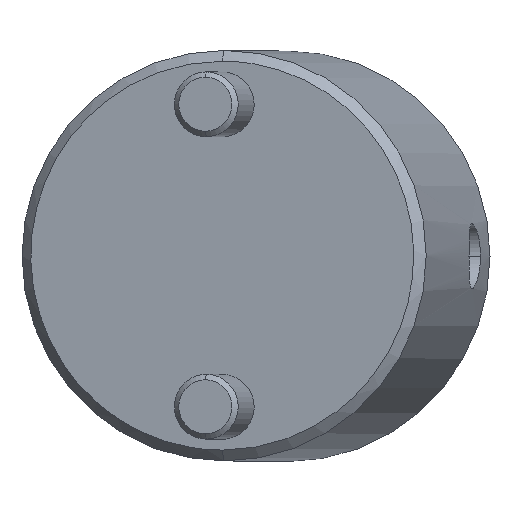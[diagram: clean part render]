
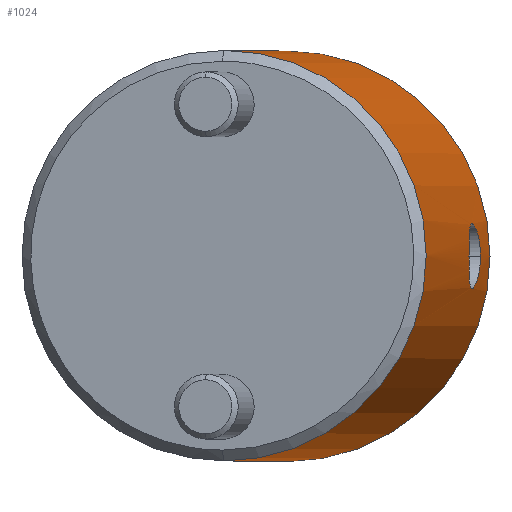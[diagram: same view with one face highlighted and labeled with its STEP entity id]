
A CAD part, top view. The second image highlights one B-rep face of the part: STEP entity #1024.
In plain terms, the highlighted cylindrical face has radius 19 mm (diameter 38 mm), a partial arc.
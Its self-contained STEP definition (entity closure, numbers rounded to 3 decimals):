
#760=CARTESIAN_POINT('Vertex',(0.,19.,1.)) ;
#763=CARTESIAN_POINT('Axis2P3D Location',(0.,0.,1.)) ;
#767=CARTESIAN_POINT('Vertex',(0.,-19.,1.)) ;
#919=CARTESIAN_POINT('Axis2P3D Location',(0.,0.,-1.8)) ;
#924=CARTESIAN_POINT('Line Origine',(0.,19.,-1.8)) ;
#928=CARTESIAN_POINT('Vertex',(0.,19.,35.)) ;
#931=CARTESIAN_POINT('Axis2P3D Location',(0.,0.,35.)) ;
#935=CARTESIAN_POINT('Vertex',(0.,-19.,35.)) ;
#938=CARTESIAN_POINT('Line Origine',(0.,-19.,-1.8)) ;
#950=CARTESIAN_POINT('Control Point',(19.,0.,29.901)) ;
#951=CARTESIAN_POINT('Control Point',(19.,0.082,29.901)) ;
#952=CARTESIAN_POINT('Control Point',(19.,0.164,29.898)) ;
#953=CARTESIAN_POINT('Control Point',(18.999,0.246,29.893)) ;
#954=CARTESIAN_POINT('Control Point',(18.995,0.492,29.866)) ;
#955=CARTESIAN_POINT('Control Point',(18.987,0.735,29.813)) ;
#956=CARTESIAN_POINT('Control Point',(18.98,0.898,29.765)) ;
#957=CARTESIAN_POINT('Control Point',(18.963,1.213,29.648)) ;
#958=CARTESIAN_POINT('Control Point',(18.941,1.506,29.488)) ;
#959=CARTESIAN_POINT('Control Point',(18.929,1.648,29.396)) ;
#960=CARTESIAN_POINT('Control Point',(18.904,1.921,29.193)) ;
#961=CARTESIAN_POINT('Control Point',(18.877,2.164,28.954)) ;
#962=CARTESIAN_POINT('Control Point',(18.864,2.277,28.825)) ;
#963=CARTESIAN_POINT('Control Point',(18.837,2.486,28.552)) ;
#964=CARTESIAN_POINT('Control Point',(18.814,2.657,28.251)) ;
#965=CARTESIAN_POINT('Control Point',(18.803,2.732,28.096)) ;
#966=CARTESIAN_POINT('Control Point',(18.784,2.86,27.777)) ;
#967=CARTESIAN_POINT('Control Point',(18.771,2.943,27.44)) ;
#968=CARTESIAN_POINT('Control Point',(18.766,2.974,27.267)) ;
#969=CARTESIAN_POINT('Control Point',(18.76,3.01,26.926)) ;
#970=CARTESIAN_POINT('Control Point',(18.762,2.999,26.584)) ;
#971=CARTESIAN_POINT('Control Point',(18.765,2.981,26.414)) ;
#972=CARTESIAN_POINT('Control Point',(18.776,2.908,25.993)) ;
#973=CARTESIAN_POINT('Control Point',(18.798,2.765,25.595)) ;
#974=CARTESIAN_POINT('Control Point',(18.815,2.653,25.367)) ;
#975=CARTESIAN_POINT('Control Point',(18.858,2.339,24.863)) ;
#976=CARTESIAN_POINT('Control Point',(18.906,1.913,24.454)) ;
#977=CARTESIAN_POINT('Control Point',(18.933,1.635,24.253)) ;
#978=CARTESIAN_POINT('Control Point',(18.97,1.148,24.)) ;
#979=CARTESIAN_POINT('Control Point',(18.992,0.616,23.861)) ;
#980=CARTESIAN_POINT('Control Point',(18.997,0.411,23.826)) ;
#981=CARTESIAN_POINT('Control Point',(19.,0.206,23.809)) ;
#982=CARTESIAN_POINT('Control Point',(19.,0.,23.809)) ;
#983=CARTESIAN_POINT('Vertex',(19.,0.,29.901)) ;
#985=CARTESIAN_POINT('Vertex',(19.,0.,23.809)) ;
#989=CARTESIAN_POINT('Control Point',(19.,0.,23.809)) ;
#990=CARTESIAN_POINT('Control Point',(19.,-0.168,23.809)) ;
#991=CARTESIAN_POINT('Control Point',(18.998,-0.336,23.82)) ;
#992=CARTESIAN_POINT('Control Point',(18.994,-0.503,23.843)) ;
#993=CARTESIAN_POINT('Control Point',(18.983,-0.835,23.914)) ;
#994=CARTESIAN_POINT('Control Point',(18.966,-1.155,24.03)) ;
#995=CARTESIAN_POINT('Control Point',(18.956,-1.309,24.098)) ;
#996=CARTESIAN_POINT('Control Point',(18.933,-1.607,24.257)) ;
#997=CARTESIAN_POINT('Control Point',(18.907,-1.88,24.456)) ;
#998=CARTESIAN_POINT('Control Point',(18.894,-2.01,24.565)) ;
#999=CARTESIAN_POINT('Control Point',(18.867,-2.251,24.799)) ;
#1000=CARTESIAN_POINT('Control Point',(18.841,-2.456,25.066)) ;
#1001=CARTESIAN_POINT('Control Point',(18.828,-2.55,25.207)) ;
#1002=CARTESIAN_POINT('Control Point',(18.799,-2.758,25.572)) ;
#1003=CARTESIAN_POINT('Control Point',(18.778,-2.899,25.971)) ;
#1004=CARTESIAN_POINT('Control Point',(18.768,-2.959,26.222)) ;
#1005=CARTESIAN_POINT('Control Point',(18.759,-3.015,26.646)) ;
#1006=CARTESIAN_POINT('Control Point',(18.762,-2.996,27.073)) ;
#1007=CARTESIAN_POINT('Control Point',(18.765,-2.977,27.245)) ;
#1008=CARTESIAN_POINT('Control Point',(18.778,-2.899,27.673)) ;
#1009=CARTESIAN_POINT('Control Point',(18.8,-2.75,28.08)) ;
#1010=CARTESIAN_POINT('Control Point',(18.817,-2.634,28.314)) ;
#1011=CARTESIAN_POINT('Control Point',(18.855,-2.359,28.755)) ;
#1012=CARTESIAN_POINT('Control Point',(18.895,-2.004,29.125)) ;
#1013=CARTESIAN_POINT('Control Point',(18.916,-1.807,29.291)) ;
#1014=CARTESIAN_POINT('Control Point',(18.955,-1.36,29.597)) ;
#1015=CARTESIAN_POINT('Control Point',(18.984,-0.854,29.794)) ;
#1016=CARTESIAN_POINT('Control Point',(18.995,-0.569,29.867)) ;
#1017=CARTESIAN_POINT('Control Point',(19.,-0.286,29.901)) ;
#1018=CARTESIAN_POINT('Control Point',(19.,0.,29.901)) ;
#764=DIRECTION('Axis2P3D Direction',(0.,0.,1.)) ;
#920=DIRECTION('Axis2P3D Direction',(0.,-0.,1.)) ;
#921=DIRECTION('Axis2P3D XDirection',(0.,-1.,0.)) ;
#925=DIRECTION('Vector Direction',(0.,0.,1.)) ;
#932=DIRECTION('Axis2P3D Direction',(0.,-0.,1.)) ;
#939=DIRECTION('Vector Direction',(0.,0.,1.)) ;
#765=AXIS2_PLACEMENT_3D('Circle Axis2P3D',#763,#764,$) ;
#922=AXIS2_PLACEMENT_3D('Cylinder Axis2P3D',#919,#920,#921) ;
#933=AXIS2_PLACEMENT_3D('Circle Axis2P3D',#931,#932,$) ;
#944=ORIENTED_EDGE('',*,*,#930,.F.) ;
#945=ORIENTED_EDGE('',*,*,#937,.T.) ;
#946=ORIENTED_EDGE('',*,*,#942,.T.) ;
#947=ORIENTED_EDGE('',*,*,#769,.F.) ;
#1021=ORIENTED_EDGE('',*,*,#987,.T.) ;
#1022=ORIENTED_EDGE('',*,*,#1019,.T.) ;
#1023=FACE_BOUND('',#1020,.T.) ;
#926=VECTOR('Line Direction',#925,1.) ;
#940=VECTOR('Line Direction',#939,1.) ;
#1024=ADVANCED_FACE('MANIFOLD_SOLID_BREP #1116',(#948,#1023),#923,.T.) ;
#949=B_SPLINE_CURVE_WITH_KNOTS('',5,(#950,#951,#952,#953,#954,#955,#956,#957,#958,#959,#960,#961,#962,#963,#964,#965,#966,#967,#968,#969,#970,#971,#972,#973,#974,#975,#976,#977,#978,#979,#980,#981,#982),.UNSPECIFIED.,.F.,.U.,(6,3,3,3,3,3,3,3,3,3,6),(0.,0.588,1.773,2.977,4.199,5.406,6.605,7.797,9.591,11.987,13.455),.UNSPECIFIED.) ;
#988=B_SPLINE_CURVE_WITH_KNOTS('',5,(#989,#990,#991,#992,#993,#994,#995,#996,#997,#998,#999,#1000,#1001,#1002,#1003,#1004,#1005,#1006,#1007,#1008,#1009,#1010,#1011,#1012,#1013,#1014,#1015,#1016,#1017,#1018),.UNSPECIFIED.,.F.,.U.,(6,3,3,3,3,3,3,3,3,6),(0.,1.205,2.406,3.611,4.813,6.599,7.796,9.61,11.423,13.458),.UNSPECIFIED.) ;
#766=CIRCLE('generated circle',#765,19.) ;
#934=CIRCLE('generated circle',#933,19.) ;
#923=CYLINDRICAL_SURFACE('generated cylinder',#922,19.) ;
#769=EDGE_CURVE('',#761,#768,#766,.F.) ;
#930=EDGE_CURVE('',#929,#761,#927,.F.) ;
#937=EDGE_CURVE('',#929,#936,#934,.F.) ;
#942=EDGE_CURVE('',#936,#768,#941,.F.) ;
#987=EDGE_CURVE('',#984,#986,#949,.T.) ;
#1019=EDGE_CURVE('',#986,#984,#988,.T.) ;
#943=EDGE_LOOP('',(#944,#945,#946,#947)) ;
#1020=EDGE_LOOP('',(#1021,#1022)) ;
#948=FACE_OUTER_BOUND('',#943,.T.) ;
#927=LINE('Line',#924,#926) ;
#941=LINE('Line',#938,#940) ;
#761=VERTEX_POINT('',#760) ;
#768=VERTEX_POINT('',#767) ;
#929=VERTEX_POINT('',#928) ;
#936=VERTEX_POINT('',#935) ;
#984=VERTEX_POINT('',#983) ;
#986=VERTEX_POINT('',#985) ;
